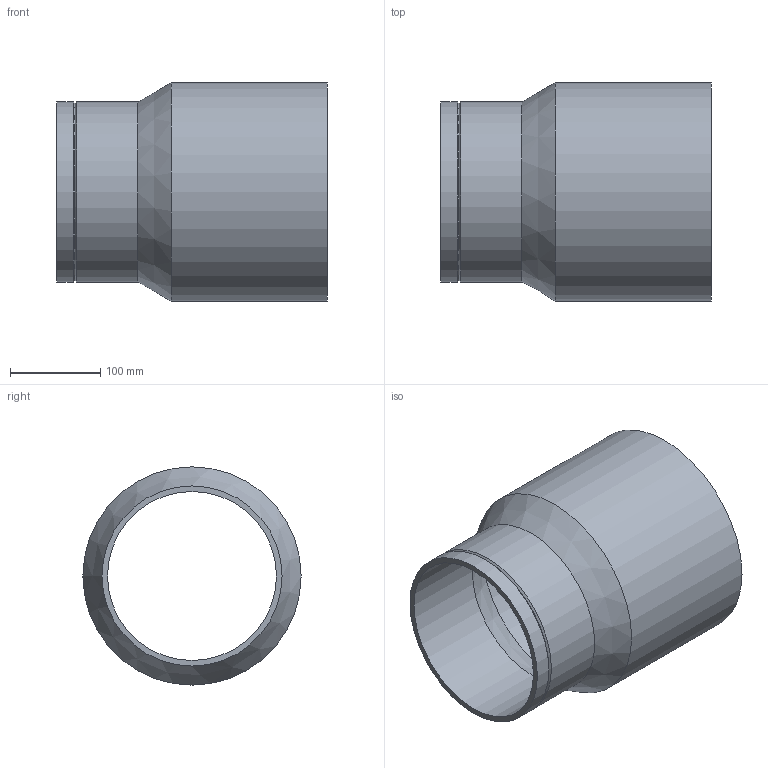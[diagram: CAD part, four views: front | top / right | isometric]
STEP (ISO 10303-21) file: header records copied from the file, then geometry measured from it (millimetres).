
FILE_DESCRIPTION(/* description */ (''),/* implementation_level */ '2;1');
FILE_NAME(/* name */ 'Z:\Geberit\Export\NewStep\370550.stp',/* time_stamp */ '2014-04-02T08:04:11+02:00',/* author */ ('nelson'),/* organization */ (''),/* preprocessor_version */ 'ST-DEVELOPER v15.2',/* originating_system */ 'Autodesk Inventor 2014',/* authorisation */ '');
FILE_SCHEMA (('AUTOMOTIVE_DESIGN { 1 0 10303 214 3 1 1 }'));
Length unit declared in the file: millimetre
Products named in the file (1): 370550
Bounding box: 300 x 242.4 x 242.4 mm (x, y, z)
Volume: 1311318.1 mm3; surface area: 433192.1 mm2
Topology: 1 solids, 1 shells, 11 faces, 20 edges, 11 vertices
Faces by surface type: cylinder 5, cone 4, plane 2
Full cylindrical faces by diameter (mm): 187.6 x1, 200 x2, 230 x1, 242.4 x1
Entity records: 249 total; most frequent: DIRECTION 46, CARTESIAN_POINT 34, AXIS2_PLACEMENT_3D 23, EDGE_LOOP 22, ORIENTED_EDGE 22, FACE_BOUND 12, CIRCLE 11, VERTEX_POINT 11
